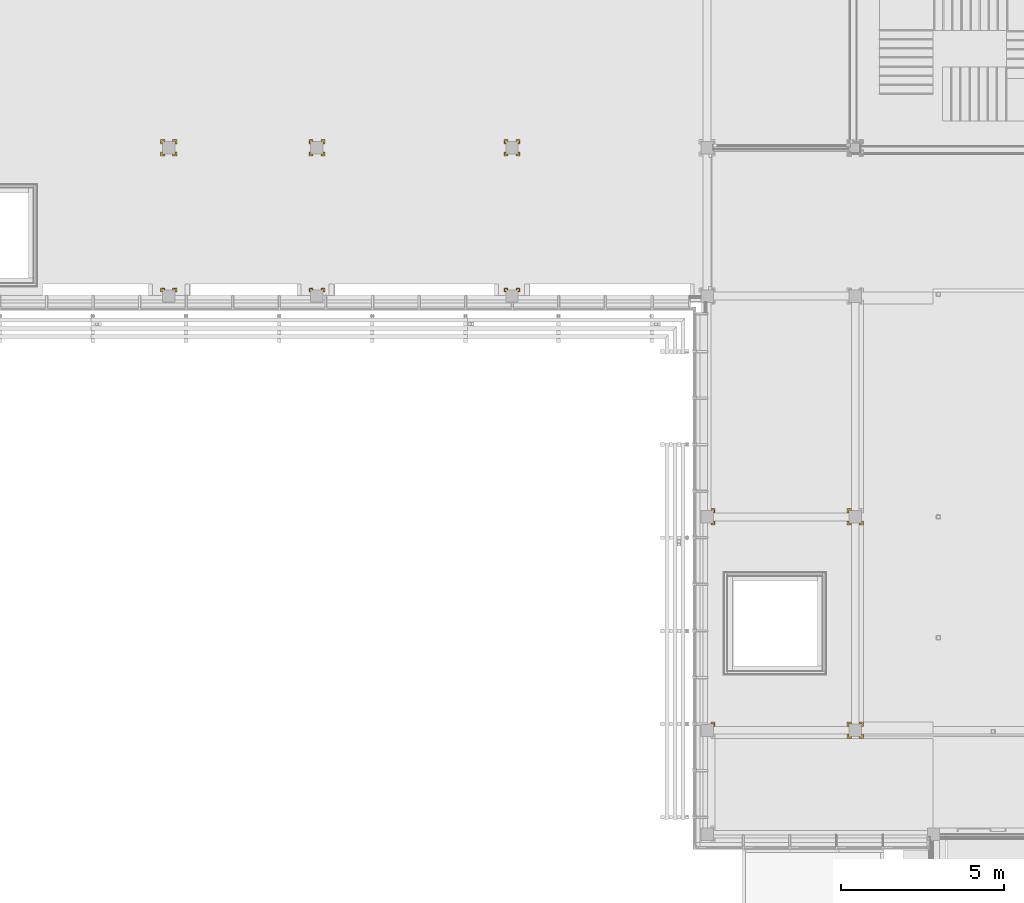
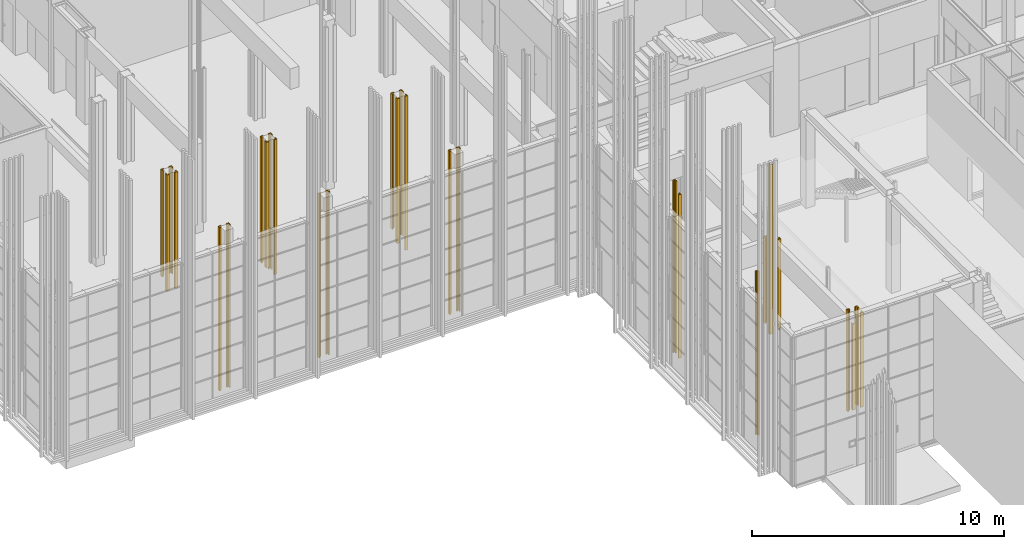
# One storey, part 255 of 260: 28 coverings.
"""IFC2X3 building model written with IfcOpenShell, lengths in millimetres."""

from ifc_helpers import new_model, entity, si_unit, converted_unit, derived_unit, money_unit, direction, frame, origin_with_axes, place, context, subcontext, project, spatial, faceted_brep, material, type_object, element, save


model = new_model("IFC2X3")

# Units and contexts
model_context = context("Model", 3, precision=0.01, world=origin_with_axes(), true_north=direction((0.0, 1.0)))
body_context = subcontext(model_context, "Body", "Model", "MODEL_VIEW")
ifc_project = project(units=[si_unit("LENGTHUNIT", "METRE", prefix="MILLI"), si_unit("AREAUNIT", "SQUARE_METRE"), si_unit("VOLUMEUNIT", "CUBIC_METRE"), converted_unit("PLANEANGLEUNIT", "DEGREE", entity("IfcPlaneAngleMeasure", 0.0174532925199), si_unit("PLANEANGLEUNIT", "RADIAN"), dimensions=[0, 0, 0, 0, 0, 0, 0]), money_unit("EUR"), converted_unit("TIMEUNIT", "Year", entity("IfcTimeMeasure", 31556926.0), si_unit("TIMEUNIT", "SECOND"), dimensions=[0, 0, 1, 0, 0, 0, 0]), si_unit("MASSUNIT", "GRAM", prefix="KILO"), si_unit("THERMODYNAMICTEMPERATUREUNIT", "DEGREE_CELSIUS"), si_unit("LUMINOUSINTENSITYUNIT", "LUMEN"), si_unit("ENERGYUNIT", "JOULE", prefix="MEGA"), derived_unit("THERMALCONDUCTANCEUNIT", [(si_unit("POWERUNIT", "WATT"), 1), (si_unit("LENGTHUNIT", "METRE"), -1), (si_unit("THERMODYNAMICTEMPERATUREUNIT", "KELVIN"), -1)]), derived_unit("SPECIFICHEATCAPACITYUNIT", [(si_unit("ENERGYUNIT", "JOULE"), 1), (si_unit("MASSUNIT", "GRAM", prefix="KILO"), -1), (si_unit("THERMODYNAMICTEMPERATUREUNIT", "KELVIN"), -1)]), derived_unit("MASSDENSITYUNIT", [(si_unit("MASSUNIT", "GRAM", prefix="KILO"), 1), (si_unit("VOLUMEUNIT", "CUBIC_METRE"), -1)])], contexts=[model_context])

# Site, building, storey
site_placement = place(None, origin_with_axes())
site = spatial("IfcSite", under=ifc_project, at=site_placement, Name="Kolde pst 67a", CompositionType="ELEMENT")
building_placement = place(site_placement, origin_with_axes())
building = spatial("IfcBuilding", under=site, at=building_placement, Name="Riigigümnaasium", CompositionType="ELEMENT")
storey_placement = place(building_placement, origin_with_axes())
storey = spatial("IfcBuildingStorey", under=building, at=storey_placement, Name="1. korrus", CompositionType="ELEMENT", Elevation=0.0)

# Coverings
ifc_material = material(Name="_KANDETARIND - liimpuit vastavalt EK osale")
covering_type = type_object("IfcCoveringType", Name="Aatriumi posti kõrvad 1 130 x 130", PredefinedType="NOTDEFINED")
covering_1_placement = place(storey_placement, frame((36249.99923, 28779.9996997, 1840.0), z_axis=(0.0, 0.0, 1.0), x_axis=(1.0, 0.0, 0.0)))
element("IfcCovering", 1, at=covering_1_placement, inside=storey, type_object=covering_type, material=ifc_material, Name="Posti katteelement", PredefinedType="NOTDEFINED", context=body_context, shape_type="Brep", body=[
    faceted_brep([(-250.0, -120.000002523, 6080.0), (-190.000000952, -120.000002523, 6080.0), (-190.000000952, -120.000002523, 0.0), (-250.0, -120.000002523, 0.0), (-209.999998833, -149.995099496, 6080.0), (-189.999999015, -149.995099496, 6080.0), (-250.0, -250.00000341, 6080.0), (-119.999999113, -250.00000341, 6080.0), (-119.999999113, -189.995101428, 6080.0), (-149.99999902, -189.995099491, 6080.0), (-149.99999902, -209.995099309, 6080.0), (-209.999998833, -209.995099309, 6080.0), (-189.999999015, -149.995099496, 0.0), (-250.0, -250.00000341, 0.0), (-209.999998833, -149.995099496, 0.0), (-209.999998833, -209.995099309, 0.0), (-149.99999902, -209.995099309, 0.0), (-149.99999902, -189.995099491, 0.0), (-119.999999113, -189.995101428, 0.0), (-119.999999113, -250.00000341, 0.0)], [[[0, 1, 2, 3]], [[4, 5, 1, 0, 6, 7, 8, 9, 10, 11]], [[1, 5, 12, 2]], [[13, 3, 2, 12, 14, 15, 16, 17, 18, 19]], [[6, 0, 3, 13]], [[5, 4, 14, 12]], [[7, 6, 13, 19]], [[8, 7, 19, 18]], [[9, 8, 18, 17]], [[10, 9, 17, 16]], [[11, 10, 16, 15]], [[4, 11, 15, 14]]]),
])
covering_2_placement = place(storey_placement, frame((42239.99923, 28779.9996997, 920.0), z_axis=(0.0, 0.0, 1.0), x_axis=(1.0, 0.0, 0.0)))
element("IfcCovering", 2, at=covering_2_placement, inside=storey, type_object=covering_type, material=ifc_material, Name="Posti katteelement", PredefinedType="NOTDEFINED", context=body_context, shape_type="Brep", body=[
    faceted_brep([(-250.0, -120.000002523, 7000.0), (-190.000000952, -120.000002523, 7000.0), (-190.000000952, -120.000002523, 0.0), (-250.0, -120.000002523, 0.0), (-209.999998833, -149.995099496, 7000.0), (-189.999999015, -149.995099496, 7000.0), (-250.0, -250.00000341, 7000.0), (-119.999999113, -250.00000341, 7000.0), (-119.999999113, -189.995101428, 7000.0), (-149.99999902, -189.995099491, 7000.0), (-149.99999902, -209.995099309, 7000.0), (-209.999998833, -209.995099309, 7000.0), (-189.999999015, -149.995099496, 0.0), (-250.0, -250.00000341, 0.0), (-209.999998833, -149.995099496, 0.0), (-209.999998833, -209.995099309, 0.0), (-149.99999902, -209.995099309, 0.0), (-149.99999902, -189.995099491, 0.0), (-119.999999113, -189.995101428, 0.0), (-119.999999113, -250.00000341, 0.0)], [[[0, 1, 2, 3]], [[4, 5, 1, 0, 6, 7, 8, 9, 10, 11]], [[1, 5, 12, 2]], [[13, 3, 2, 12, 14, 15, 16, 17, 18, 19]], [[6, 0, 3, 13]], [[5, 4, 14, 12]], [[7, 6, 13, 19]], [[8, 7, 19, 18]], [[9, 8, 18, 17]], [[10, 9, 17, 16]], [[11, 10, 16, 15]], [[4, 11, 15, 14]]]),
])
for number, where, z_axis, x_axis in (
    (3, (36249.99923, 24230.2703956, 0.0), (0.0, 0.0, 1.0), (1.0, 0.0, 0.0)),
    (4, (42239.99923, 24230.2703956, 0.0), (0.0, 0.0, 1.0), (1.0, 0.0, 0.0)),
    (5, (31700.0027795, 24230.2703956, 0.0), (0.0, 0.0, 1.0), (1.0, 0.0, 0.0)),
):
    element("IfcCovering", number, at=place(storey_placement, frame(where, z_axis=z_axis, x_axis=x_axis)), inside=storey, type_object=covering_type, material=ifc_material, Name="Posti katteelement", PredefinedType="NOTDEFINED", context=body_context, shape_type="Brep", body=[
        faceted_brep([(190.000000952, 120.000002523, 7920.0), (190.000000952, 120.000002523, 0.0), (250.0, 120.000002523, 0.0), (250.0, 120.000002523, 7920.0), (189.999999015, 149.995099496, 7920.0), (189.999999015, 149.995099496, 0.0), (209.999998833, 149.995099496, 0.0), (209.999998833, 209.995099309, 0.0), (149.99999902, 209.995099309, 0.0), (149.99999902, 189.995099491, 0.0), (119.999999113, 189.995101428, 0.0), (119.999999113, 250.00000341, 0.0), (250.0, 250.00000341, 0.0), (250.0, 250.00000341, 7920.0), (119.999999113, 250.00000341, 7920.0), (119.999999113, 189.995101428, 7920.0), (149.99999902, 189.995099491, 7920.0), (149.99999902, 209.995099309, 7920.0), (209.999998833, 209.995099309, 7920.0), (209.999998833, 149.995099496, 7920.0)], [[[0, 1, 2, 3]], [[4, 5, 1, 0]], [[2, 1, 5, 6, 7, 8, 9, 10, 11, 12]], [[3, 2, 12, 13]], [[4, 0, 3, 13, 14, 15, 16, 17, 18, 19]], [[19, 6, 5, 4]], [[18, 7, 6, 19]], [[17, 8, 7, 18]], [[16, 9, 8, 17]], [[15, 10, 9, 16]], [[14, 11, 10, 15]], [[13, 12, 11, 14]]]),
    ])
covering_3_placement = place(storey_placement, frame((31700.0027795, 28779.9996997, 2300.0), z_axis=(0.0, 0.0, 1.0), x_axis=(1.0, 0.0, 0.0)))
element("IfcCovering", 6, at=covering_3_placement, inside=storey, type_object=covering_type, material=ifc_material, Name="Posti katteelement", PredefinedType="NOTDEFINED", context=body_context, shape_type="Brep", body=[
    faceted_brep([(-250.0, -120.000002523, 5620.0), (-190.000000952, -120.000002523, 5620.0), (-190.000000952, -120.000002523, 0.0), (-250.0, -120.000002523, 0.0), (-209.999998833, -149.995099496, 5620.0), (-189.999999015, -149.995099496, 5620.0), (-250.0, -250.00000341, 5620.0), (-119.999999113, -250.00000341, 5620.0), (-119.999999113, -189.995101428, 5620.0), (-149.99999902, -189.995099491, 5620.0), (-149.99999902, -209.995099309, 5620.0), (-209.999998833, -209.995099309, 5620.0), (-189.999999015, -149.995099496, 0.0), (-250.0, -250.00000341, 0.0), (-209.999998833, -149.995099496, 0.0), (-209.999998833, -209.995099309, 0.0), (-149.99999902, -209.995099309, 0.0), (-149.99999902, -189.995099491, 0.0), (-119.999999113, -189.995101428, 0.0), (-119.999999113, -250.00000341, 0.0)], [[[0, 1, 2, 3]], [[4, 5, 1, 0, 6, 7, 8, 9, 10, 11]], [[1, 5, 12, 2]], [[13, 3, 2, 12, 14, 15, 16, 17, 18, 19]], [[6, 0, 3, 13]], [[5, 4, 14, 12]], [[7, 6, 13, 19]], [[8, 7, 19, 18]], [[9, 8, 18, 17]], [[10, 9, 17, 16]], [[11, 10, 16, 15]], [[4, 11, 15, 14]]]),
])
covering_4_placement = place(storey_placement, frame((48229.985469, 17449.9999742, 0.0), z_axis=(0.0, 0.0, 1.0), x_axis=(1.0, 0.0, 0.0)))
element("IfcCovering", 7, at=covering_4_placement, inside=storey, type_object=covering_type, material=ifc_material, Name="Posti katteelement", PredefinedType="NOTDEFINED", context=body_context, shape_type="Brep", body=[
    faceted_brep([(120.000002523, -250.0, 7920.0), (120.000002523, -190.000000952, 7920.0), (120.000002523, -190.000000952, 0.0), (120.000002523, -250.0, 0.0), (149.995099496, -209.999998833, 7920.0), (149.995099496, -189.999999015, 7920.0), (250.00000341, -250.0, 7920.0), (250.00000341, -119.999999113, 7920.0), (189.995101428, -119.999999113, 7920.0), (189.995099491, -149.99999902, 7920.0), (209.995099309, -149.99999902, 7920.0), (209.995099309, -209.999998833, 7920.0), (149.995099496, -189.999999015, 0.0), (250.00000341, -250.0, 0.0), (149.995099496, -209.999998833, 0.0), (209.995099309, -209.999998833, 0.0), (209.995099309, -149.99999902, 0.0), (189.995099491, -149.99999902, 0.0), (189.995101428, -119.999999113, 0.0), (250.00000341, -119.999999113, 0.0)], [[[0, 1, 2, 3]], [[4, 5, 1, 0, 6, 7, 8, 9, 10, 11]], [[1, 5, 12, 2]], [[13, 3, 2, 12, 14, 15, 16, 17, 18, 19]], [[6, 0, 3, 13]], [[5, 4, 14, 12]], [[7, 6, 13, 19]], [[8, 7, 19, 18]], [[9, 8, 18, 17]], [[10, 9, 17, 16]], [[11, 10, 16, 15]], [[4, 11, 15, 14]]]),
])
covering_5_placement = place(storey_placement, frame((52779.9941032, 17449.9999742, 0.0), z_axis=(0.0, 0.0, 1.0), x_axis=(1.0, 0.0, 0.0)))
element("IfcCovering", 8, at=covering_5_placement, inside=storey, type_object=covering_type, material=ifc_material, Name="Posti katteelement", PredefinedType="NOTDEFINED", context=body_context, shape_type="Brep", body=[
    faceted_brep([(-120.000002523, 250.0, 0.0), (-120.000002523, 250.0, 4170.0), (-120.000002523, 190.000000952, 4170.0), (-120.000002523, 190.000000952, 0.0), (-250.00000341, 250.0, 0.0), (-250.00000341, 250.0, 4170.0), (-209.995099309, 209.999998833, 4170.0), (-149.995099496, 209.999998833, 4170.0), (-149.995099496, 189.999999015, 4170.0), (-250.00000341, 119.999999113, 4170.0), (-189.995101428, 119.999999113, 4170.0), (-189.995099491, 149.99999902, 4170.0), (-209.995099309, 149.99999902, 4170.0), (-149.995099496, 189.999999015, 0.0), (-250.00000341, 119.999999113, 0.0), (-149.995099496, 209.999998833, 0.0), (-209.995099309, 209.999998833, 0.0), (-209.995099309, 149.99999902, 0.0), (-189.995099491, 149.99999902, 0.0), (-189.995101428, 119.999999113, 0.0)], [[[0, 1, 2, 3]], [[4, 5, 1, 0]], [[6, 7, 8, 2, 1, 5, 9, 10, 11, 12]], [[3, 2, 8, 13]], [[14, 4, 0, 3, 13, 15, 16, 17, 18, 19]], [[14, 9, 5, 4]], [[15, 7, 6, 16]], [[13, 8, 7, 15]], [[19, 10, 9, 14]], [[18, 11, 10, 19]], [[17, 12, 11, 18]], [[16, 6, 12, 17]]]),
])
covering_6_placement = place(storey_placement, frame((52779.9941032, 10899.9619407, 0.0), z_axis=(0.0, 0.0, 1.0), x_axis=(-4.31861827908e-08, 1.0, 0.0)))
element("IfcCovering", 9, at=covering_6_placement, inside=storey, type_object=covering_type, material=ifc_material, Name="Posti katteelement", PredefinedType="NOTDEFINED", context=body_context, shape_type="Brep", body=[
    faceted_brep([(-120.000002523, 250.0, 4170.0), (-120.000002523, 190.000000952, 4170.0), (-120.000002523, 190.000000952, 0.0), (-120.000002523, 250.0, 0.0), (-149.995099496, 209.999998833, 4170.0), (-149.995099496, 189.999999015, 4170.0), (-250.00000341, 250.0, 4170.0), (-250.00000341, 119.999999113, 4170.0), (-189.995101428, 119.999999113, 4170.0), (-189.995099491, 149.99999902, 4170.0), (-209.995099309, 149.99999902, 4170.0), (-209.995099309, 209.999998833, 4170.0), (-149.995099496, 189.999999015, 0.0), (-250.00000341, 250.0, 0.0), (-149.995099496, 209.999998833, 0.0), (-209.995099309, 209.999998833, 0.0), (-209.995099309, 149.99999902, 0.0), (-189.995099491, 149.99999902, 0.0), (-189.995101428, 119.999999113, 0.0), (-250.00000341, 119.999999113, 0.0)], [[[0, 1, 2, 3]], [[4, 5, 1, 0, 6, 7, 8, 9, 10, 11]], [[1, 5, 12, 2]], [[13, 3, 2, 12, 14, 15, 16, 17, 18, 19]], [[6, 0, 3, 13]], [[5, 4, 14, 12]], [[7, 6, 13, 19]], [[8, 7, 19, 18]], [[9, 8, 18, 17]], [[10, 9, 17, 16]], [[11, 10, 16, 15]], [[4, 11, 15, 14]]]),
])
for number, where, z_axis, x_axis in (
    (10, (31700.0027795, 28779.9996997, 2760.0), (0.0, 0.0, 1.0), (0.0, -1.0, 0.0)),
    (11, (31700.0027795, 28779.9996997, 2760.0), (0.0, 0.0, 1.0), (-1.0, 0.0, 0.0)),
):
    element("IfcCovering", number, at=place(storey_placement, frame(where, z_axis=z_axis, x_axis=x_axis)), inside=storey, type_object=covering_type, material=ifc_material, Name="Posti katteelement", PredefinedType="NOTDEFINED", context=body_context, shape_type="Brep", body=[
        faceted_brep([(-190.000000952, -120.000002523, 5160.0), (-190.000000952, -120.000002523, 0.0), (-250.0, -120.000002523, 0.0), (-250.0, -120.000002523, 5160.0), (-189.999999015, -149.995099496, 5160.0), (-189.999999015, -149.995099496, 0.0), (-209.999998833, -149.995099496, 0.0), (-209.999998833, -209.995099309, 0.0), (-149.99999902, -209.995099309, 0.0), (-149.99999902, -189.995099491, 0.0), (-119.999999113, -189.995101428, 0.0), (-119.999999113, -250.00000341, 0.0), (-250.0, -250.00000341, 0.0), (-250.0, -250.00000341, 5160.0), (-119.999999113, -250.00000341, 5160.0), (-119.999999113, -189.995101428, 5160.0), (-149.99999902, -189.995099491, 5160.0), (-149.99999902, -209.995099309, 5160.0), (-209.999998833, -209.995099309, 5160.0), (-209.999998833, -149.995099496, 5160.0)], [[[0, 1, 2, 3]], [[4, 5, 1, 0]], [[2, 1, 5, 6, 7, 8, 9, 10, 11, 12]], [[3, 2, 12, 13]], [[4, 0, 3, 13, 14, 15, 16, 17, 18, 19]], [[19, 6, 5, 4]], [[18, 7, 6, 19]], [[17, 8, 7, 18]], [[16, 9, 8, 17]], [[15, 10, 9, 16]], [[14, 11, 10, 15]], [[13, 12, 11, 14]]]),
    ])
covering_7_placement = place(storey_placement, frame((31700.0027795, 28779.9996997, 2300.0), z_axis=(0.0, 0.0, 1.0), x_axis=(0.0, 1.0, 0.0)))
element("IfcCovering", 12, at=covering_7_placement, inside=storey, type_object=covering_type, material=ifc_material, Name="Posti katteelement", PredefinedType="NOTDEFINED", context=body_context, shape_type="Brep", body=[
    faceted_brep([(-190.000000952, -120.000002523, 5620.0), (-190.000000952, -120.000002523, 0.0), (-250.0, -120.000002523, 0.0), (-250.0, -120.000002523, 5620.0), (-189.999999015, -149.995099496, 5620.0), (-189.999999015, -149.995099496, 0.0), (-209.999998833, -149.995099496, 0.0), (-209.999998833, -209.995099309, 0.0), (-149.99999902, -209.995099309, 0.0), (-149.99999902, -189.995099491, 0.0), (-119.999999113, -189.995101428, 0.0), (-119.999999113, -250.00000341, 0.0), (-250.0, -250.00000341, 0.0), (-250.0, -250.00000341, 5620.0), (-119.999999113, -250.00000341, 5620.0), (-119.999999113, -189.995101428, 5620.0), (-149.99999902, -189.995099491, 5620.0), (-149.99999902, -209.995099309, 5620.0), (-209.999998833, -209.995099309, 5620.0), (-209.999998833, -149.995099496, 5620.0)], [[[0, 1, 2, 3]], [[4, 5, 1, 0]], [[2, 1, 5, 6, 7, 8, 9, 10, 11, 12]], [[3, 2, 12, 13]], [[4, 0, 3, 13, 14, 15, 16, 17, 18, 19]], [[19, 6, 5, 4]], [[18, 7, 6, 19]], [[17, 8, 7, 18]], [[16, 9, 8, 17]], [[15, 10, 9, 16]], [[14, 11, 10, 15]], [[13, 12, 11, 14]]]),
])
covering_8_placement = place(storey_placement, frame((36249.99923, 28779.9996997, 1840.0), z_axis=(0.0, 0.0, 1.0), x_axis=(0.0, -1.0, 0.0)))
element("IfcCovering", 13, at=covering_8_placement, inside=storey, type_object=covering_type, material=ifc_material, Name="Posti katteelement", PredefinedType="NOTDEFINED", context=body_context, shape_type="Brep", body=[
    faceted_brep([(-190.000000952, -120.000002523, 6080.0), (-190.000000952, -120.000002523, 0.0), (-250.0, -120.000002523, 0.0), (-250.0, -120.000002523, 6080.0), (-189.999999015, -149.995099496, 6080.0), (-189.999999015, -149.995099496, 0.0), (-209.999998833, -149.995099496, 0.0), (-209.999998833, -209.995099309, 0.0), (-149.99999902, -209.995099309, 0.0), (-149.99999902, -189.995099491, 0.0), (-119.999999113, -189.995101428, 0.0), (-119.999999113, -250.00000341, 0.0), (-250.0, -250.00000341, 0.0), (-250.0, -250.00000341, 6080.0), (-119.999999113, -250.00000341, 6080.0), (-119.999999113, -189.995101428, 6080.0), (-149.99999902, -189.995099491, 6080.0), (-149.99999902, -209.995099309, 6080.0), (-209.999998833, -209.995099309, 6080.0), (-209.999998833, -149.995099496, 6080.0)], [[[0, 1, 2, 3]], [[4, 5, 1, 0]], [[2, 1, 5, 6, 7, 8, 9, 10, 11, 12]], [[3, 2, 12, 13]], [[4, 0, 3, 13, 14, 15, 16, 17, 18, 19]], [[19, 6, 5, 4]], [[18, 7, 6, 19]], [[17, 8, 7, 18]], [[16, 9, 8, 17]], [[15, 10, 9, 16]], [[14, 11, 10, 15]], [[13, 12, 11, 14]]]),
])
for number, where, z_axis, x_axis in (
    (14, (36249.99923, 28779.9996997, 1380.0), (0.0, 0.0, 1.0), (-1.0, 0.0, 0.0)),
    (15, (36249.99923, 28779.9996997, 1380.0), (0.0, 0.0, 1.0), (0.0, 1.0, 0.0)),
    (16, (42239.99923, 28779.9996997, 1380.0), (0.0, 0.0, 1.0), (0.0, -1.0, 0.0)),
):
    element("IfcCovering", number, at=place(storey_placement, frame(where, z_axis=z_axis, x_axis=x_axis)), inside=storey, type_object=covering_type, material=ifc_material, Name="Posti katteelement", PredefinedType="NOTDEFINED", context=body_context, shape_type="Brep", body=[
        faceted_brep([(-190.000000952, -120.000002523, 6540.0), (-190.000000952, -120.000002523, 0.0), (-250.0, -120.000002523, 0.0), (-250.0, -120.000002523, 6540.0), (-189.999999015, -149.995099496, 6540.0), (-189.999999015, -149.995099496, 0.0), (-209.999998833, -149.995099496, 0.0), (-209.999998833, -209.995099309, 0.0), (-149.99999902, -209.995099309, 0.0), (-149.99999902, -189.995099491, 0.0), (-119.999999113, -189.995101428, 0.0), (-119.999999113, -250.00000341, 0.0), (-250.0, -250.00000341, 0.0), (-250.0, -250.00000341, 6540.0), (-119.999999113, -250.00000341, 6540.0), (-119.999999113, -189.995101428, 6540.0), (-149.99999902, -189.995099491, 6540.0), (-149.99999902, -209.995099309, 6540.0), (-209.999998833, -209.995099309, 6540.0), (-209.999998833, -149.995099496, 6540.0)], [[[0, 1, 2, 3]], [[4, 5, 1, 0]], [[2, 1, 5, 6, 7, 8, 9, 10, 11, 12]], [[3, 2, 12, 13]], [[4, 0, 3, 13, 14, 15, 16, 17, 18, 19]], [[19, 6, 5, 4]], [[18, 7, 6, 19]], [[17, 8, 7, 18]], [[16, 9, 8, 17]], [[15, 10, 9, 16]], [[14, 11, 10, 15]], [[13, 12, 11, 14]]]),
    ])
covering_9_placement = place(storey_placement, frame((42239.99923, 28779.9996997, 920.0), z_axis=(0.0, 0.0, 1.0), x_axis=(-0.999999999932, -1.16656692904e-05, 0.0)))
element("IfcCovering", 17, at=covering_9_placement, inside=storey, type_object=covering_type, material=ifc_material, Name="Posti katteelement", PredefinedType="NOTDEFINED", context=body_context, shape_type="Brep", body=[
    faceted_brep([(-190.000000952, -120.000002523, 7000.0), (-190.000000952, -120.000002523, 0.0), (-250.0, -120.000002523, 0.0), (-250.0, -120.000002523, 7000.0), (-189.999999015, -149.995099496, 7000.0), (-189.999999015, -149.995099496, 0.0), (-209.999998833, -149.995099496, 0.0), (-209.999998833, -209.995099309, 0.0), (-149.99999902, -209.995099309, 0.0), (-149.99999902, -189.995099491, 0.0), (-119.999999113, -189.995101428, 0.0), (-119.999999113, -250.00000341, 0.0), (-250.0, -250.00000341, 0.0), (-250.0, -250.00000341, 7000.0), (-119.999999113, -250.00000341, 7000.0), (-119.999999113, -189.995101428, 7000.0), (-149.99999902, -189.995099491, 7000.0), (-149.99999902, -209.995099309, 7000.0), (-209.999998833, -209.995099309, 7000.0), (-209.999998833, -149.995099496, 7000.0)], [[[0, 1, 2, 3]], [[4, 5, 1, 0]], [[2, 1, 5, 6, 7, 8, 9, 10, 11, 12]], [[3, 2, 12, 13]], [[4, 0, 3, 13, 14, 15, 16, 17, 18, 19]], [[19, 6, 5, 4]], [[18, 7, 6, 19]], [[17, 8, 7, 18]], [[16, 9, 8, 17]], [[15, 10, 9, 16]], [[14, 11, 10, 15]], [[13, 12, 11, 14]]]),
])
covering_10_placement = place(storey_placement, frame((42239.99923, 28779.9996997, 460.0), z_axis=(0.0, 0.0, 1.0), x_axis=(-1.16656691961e-05, 0.999999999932, 0.0)))
element("IfcCovering", 18, at=covering_10_placement, inside=storey, type_object=covering_type, material=ifc_material, Name="Posti katteelement", PredefinedType="NOTDEFINED", context=body_context, shape_type="Brep", body=[
    faceted_brep([(-190.000000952, -120.000002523, 7460.0), (-190.000000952, -120.000002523, 0.0), (-250.0, -120.000002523, 0.0), (-250.0, -120.000002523, 7460.0), (-189.999999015, -149.995099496, 7460.0), (-189.999999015, -149.995099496, 0.0), (-209.999998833, -149.995099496, 0.0), (-209.999998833, -209.995099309, 0.0), (-149.99999902, -209.995099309, 0.0), (-149.99999902, -189.995099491, 0.0), (-119.999999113, -189.995101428, 0.0), (-119.999999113, -250.00000341, 0.0), (-250.0, -250.00000341, 0.0), (-250.0, -250.00000341, 7460.0), (-119.999999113, -250.00000341, 7460.0), (-119.999999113, -189.995101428, 7460.0), (-149.99999902, -189.995099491, 7460.0), (-149.99999902, -209.995099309, 7460.0), (-209.999998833, -209.995099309, 7460.0), (-209.999998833, -149.995099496, 7460.0)], [[[0, 1, 2, 3]], [[4, 5, 1, 0]], [[2, 1, 5, 6, 7, 8, 9, 10, 11, 12]], [[3, 2, 12, 13]], [[4, 0, 3, 13, 14, 15, 16, 17, 18, 19]], [[19, 6, 5, 4]], [[18, 7, 6, 19]], [[17, 8, 7, 18]], [[16, 9, 8, 17]], [[15, 10, 9, 16]], [[14, 11, 10, 15]], [[13, 12, 11, 14]]]),
])
for number, where, z_axis, x_axis in (
    (19, (31700.0027795, 24230.2703956, 0.0), (0.0, 0.0, 1.0), (0.0, 1.0, 0.0)),
    (20, (36249.99923, 24230.2703956, 0.0), (0.0, 0.0, 1.0), (-1.16656692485e-05, 0.999999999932, 0.0)),
    (21, (42239.99923, 24230.2703956, 0.0), (0.0, 0.0, 1.0), (0.0, 1.0, 0.0)),
):
    element("IfcCovering", number, at=place(storey_placement, frame(where, z_axis=z_axis, x_axis=x_axis)), inside=storey, type_object=covering_type, material=ifc_material, Name="Posti katteelement", PredefinedType="NOTDEFINED", context=body_context, shape_type="Brep", body=[
        faceted_brep([(190.000000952, 120.000002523, 7920.0), (190.000000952, 120.000002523, 0.0), (250.0, 120.000002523, 0.0), (250.0, 120.000002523, 7920.0), (189.999999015, 149.995099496, 7920.0), (189.999999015, 149.995099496, 0.0), (209.999998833, 149.995099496, 0.0), (209.999998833, 209.995099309, 0.0), (149.99999902, 209.995099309, 0.0), (149.99999902, 189.995099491, 0.0), (119.999999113, 189.995101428, 0.0), (119.999999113, 250.00000341, 0.0), (250.0, 250.00000341, 0.0), (250.0, 250.00000341, 7920.0), (119.999999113, 250.00000341, 7920.0), (119.999999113, 189.995101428, 7920.0), (149.99999902, 189.995099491, 7920.0), (149.99999902, 209.995099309, 7920.0), (209.999998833, 209.995099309, 7920.0), (209.999998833, 149.995099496, 7920.0)], [[[0, 1, 2, 3]], [[4, 5, 1, 0]], [[2, 1, 5, 6, 7, 8, 9, 10, 11, 12]], [[3, 2, 12, 13]], [[4, 0, 3, 13, 14, 15, 16, 17, 18, 19]], [[19, 6, 5, 4]], [[18, 7, 6, 19]], [[17, 8, 7, 18]], [[16, 9, 8, 17]], [[15, 10, 9, 16]], [[14, 11, 10, 15]], [[13, 12, 11, 14]]]),
    ])
covering_11_placement = place(storey_placement, frame((48229.985469, 17449.9999742, 0.0), z_axis=(0.0, 0.0, 1.0), x_axis=(-1.16656692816e-05, 0.999999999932, 0.0)))
element("IfcCovering", 22, at=covering_11_placement, inside=storey, type_object=covering_type, material=ifc_material, Name="Posti katteelement", PredefinedType="NOTDEFINED", context=body_context, shape_type="Brep", body=[
    faceted_brep([(120.000002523, -190.000000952, 8350.0), (120.000002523, -190.000000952, 0.0), (120.000002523, -250.0, 0.0), (120.000002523, -250.0, 8350.0), (149.995099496, -189.999999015, 8350.0), (149.995099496, -189.999999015, 0.0), (149.995099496, -209.999998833, 0.0), (209.995099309, -209.999998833, 0.0), (209.995099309, -149.99999902, 0.0), (189.995099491, -149.99999902, 0.0), (189.995101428, -119.999999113, 0.0), (250.00000341, -119.999999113, 0.0), (250.00000341, -250.0, 0.0), (250.00000341, -250.0, 8350.0), (250.00000341, -119.999999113, 8350.0), (189.995101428, -119.999999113, 8350.0), (189.995099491, -149.99999902, 8350.0), (209.995099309, -149.99999902, 8350.0), (209.995099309, -209.999998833, 8350.0), (149.995099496, -209.999998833, 8350.0)], [[[0, 1, 2, 3]], [[4, 5, 1, 0]], [[2, 1, 5, 6, 7, 8, 9, 10, 11, 12]], [[3, 2, 12, 13]], [[4, 0, 3, 13, 14, 15, 16, 17, 18, 19]], [[19, 6, 5, 4]], [[18, 7, 6, 19]], [[17, 8, 7, 18]], [[16, 9, 8, 17]], [[15, 10, 9, 16]], [[14, 11, 10, 15]], [[13, 12, 11, 14]]]),
])
covering_12_placement = place(storey_placement, frame((48229.9854991, 10899.9619736, 0.0), z_axis=(0.0, 0.0, 1.0), x_axis=(6.81972884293e-09, 1.0, 0.0)))
element("IfcCovering", 23, at=covering_12_placement, inside=storey, type_object=covering_type, material=ifc_material, Name="Posti katteelement", PredefinedType="NOTDEFINED", context=body_context, shape_type="Brep", body=[
    faceted_brep([(120.000002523, -190.000000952, 7920.0), (120.000002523, -190.000000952, 0.0), (120.000002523, -250.0, 0.0), (120.000002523, -250.0, 7920.0), (149.995099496, -189.999999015, 7920.0), (149.995099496, -189.999999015, 0.0), (149.995099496, -209.999998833, 0.0), (209.995099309, -209.999998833, 0.0), (209.995099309, -149.99999902, 0.0), (189.995099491, -149.99999902, 0.0), (189.995101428, -119.999999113, 0.0), (250.00000341, -119.999999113, 0.0), (250.00000341, -250.0, 0.0), (250.00000341, -250.0, 7920.0), (250.00000341, -119.999999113, 7920.0), (189.995101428, -119.999999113, 7920.0), (189.995099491, -149.99999902, 7920.0), (209.995099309, -149.99999902, 7920.0), (209.995099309, -209.999998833, 7920.0), (149.995099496, -209.999998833, 7920.0)], [[[0, 1, 2, 3]], [[4, 5, 1, 0]], [[2, 1, 5, 6, 7, 8, 9, 10, 11, 12]], [[3, 2, 12, 13]], [[4, 0, 3, 13, 14, 15, 16, 17, 18, 19]], [[19, 6, 5, 4]], [[18, 7, 6, 19]], [[17, 8, 7, 18]], [[16, 9, 8, 17]], [[15, 10, 9, 16]], [[14, 11, 10, 15]], [[13, 12, 11, 14]]]),
])
covering_13_placement = place(storey_placement, frame((52779.9941032, 10899.9619407, -300.0), z_axis=(0.0, 0.0, 1.0), x_axis=(1.0, -5.68256375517e-08, 0.0)))
element("IfcCovering", 24, at=covering_13_placement, inside=storey, type_object=covering_type, material=ifc_material, Name="Posti katteelement", PredefinedType="NOTDEFINED", context=body_context, shape_type="Brep", body=[
    faceted_brep([(-120.000002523, 190.000000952, 4900.0), (-120.000002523, 190.000000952, 0.0), (-120.000002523, 250.0, 0.0), (-120.000002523, 250.0, 4900.0), (-149.995099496, 189.999999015, 4900.0), (-149.995099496, 189.999999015, 0.0), (-149.995099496, 209.999998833, 0.0), (-209.995099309, 209.999998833, 0.0), (-209.995099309, 149.99999902, 0.0), (-189.995099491, 149.99999902, 0.0), (-189.995101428, 119.999999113, 0.0), (-250.00000341, 119.999999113, 0.0), (-250.00000341, 250.0, 0.0), (-250.00000341, 250.0, 4900.0), (-250.00000341, 119.999999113, 4900.0), (-189.995101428, 119.999999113, 4900.0), (-189.995099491, 149.99999902, 4900.0), (-209.995099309, 149.99999902, 4900.0), (-209.995099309, 209.999998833, 4900.0), (-149.995099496, 209.999998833, 4900.0)], [[[0, 1, 2, 3]], [[4, 5, 1, 0]], [[2, 1, 5, 6, 7, 8, 9, 10, 11, 12]], [[3, 2, 12, 13]], [[4, 0, 3, 13, 14, 15, 16, 17, 18, 19]], [[19, 6, 5, 4]], [[18, 7, 6, 19]], [[17, 8, 7, 18]], [[16, 9, 8, 17]], [[15, 10, 9, 16]], [[14, 11, 10, 15]], [[13, 12, 11, 14]]]),
])
covering_14_placement = place(storey_placement, frame((52779.9941032, 10899.9619407, -150.0), z_axis=(0.0, 0.0, 1.0), x_axis=(-5.68255739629e-08, -1.0, 0.0)))
element("IfcCovering", 25, at=covering_14_placement, inside=storey, type_object=covering_type, material=ifc_material, Name="Posti katteelement", PredefinedType="NOTDEFINED", context=body_context, shape_type="Brep", body=[
    faceted_brep([(-120.000002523, 190.000000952, 4750.0), (-120.000002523, 190.000000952, 0.0), (-120.000002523, 250.0, 0.0), (-120.000002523, 250.0, 4750.0), (-149.995099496, 189.999999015, 4750.0), (-149.995099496, 189.999999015, 0.0), (-149.995099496, 209.999998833, 0.0), (-209.995099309, 209.999998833, 0.0), (-209.995099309, 149.99999902, 0.0), (-189.995099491, 149.99999902, 0.0), (-189.995101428, 119.999999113, 0.0), (-250.00000341, 119.999999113, 0.0), (-250.00000341, 250.0, 0.0), (-250.00000341, 250.0, 4750.0), (-250.00000341, 119.999999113, 4750.0), (-189.995101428, 119.999999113, 4750.0), (-189.995099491, 149.99999902, 4750.0), (-209.995099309, 149.99999902, 4750.0), (-209.995099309, 209.999998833, 4750.0), (-149.995099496, 209.999998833, 4750.0)], [[[0, 1, 2, 3]], [[4, 5, 1, 0]], [[2, 1, 5, 6, 7, 8, 9, 10, 11, 12]], [[3, 2, 12, 13]], [[4, 0, 3, 13, 14, 15, 16, 17, 18, 19]], [[19, 6, 5, 4]], [[18, 7, 6, 19]], [[17, 8, 7, 18]], [[16, 9, 8, 17]], [[15, 10, 9, 16]], [[14, 11, 10, 15]], [[13, 12, 11, 14]]]),
])
covering_15_placement = place(storey_placement, frame((52779.9941032, 10899.9619407, 0.0), z_axis=(0.0, 0.0, 1.0), x_axis=(-1.0, 1.56837394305e-07, 0.0)))
element("IfcCovering", 26, at=covering_15_placement, inside=storey, type_object=covering_type, material=ifc_material, Name="Posti katteelement", PredefinedType="NOTDEFINED", context=body_context, shape_type="Brep", body=[
    faceted_brep([(-120.000002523, 190.000000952, 4600.0), (-120.000002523, 190.000000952, 0.0), (-120.000002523, 250.0, 0.0), (-120.000002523, 250.0, 4600.0), (-149.995099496, 189.999999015, 4600.0), (-149.995099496, 189.999999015, 0.0), (-149.995099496, 209.999998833, 0.0), (-209.995099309, 209.999998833, 0.0), (-209.995099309, 149.99999902, 0.0), (-189.995099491, 149.99999902, 0.0), (-189.995101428, 119.999999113, 0.0), (-250.00000341, 119.999999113, 0.0), (-250.00000341, 250.0, 0.0), (-250.00000341, 250.0, 4600.0), (-250.00000341, 119.999999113, 4600.0), (-189.995101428, 119.999999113, 4600.0), (-189.995099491, 149.99999902, 4600.0), (-209.995099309, 149.99999902, 4600.0), (-209.995099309, 209.999998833, 4600.0), (-149.995099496, 209.999998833, 4600.0)], [[[0, 1, 2, 3]], [[4, 5, 1, 0]], [[2, 1, 5, 6, 7, 8, 9, 10, 11, 12]], [[3, 2, 12, 13]], [[4, 0, 3, 13, 14, 15, 16, 17, 18, 19]], [[19, 6, 5, 4]], [[18, 7, 6, 19]], [[17, 8, 7, 18]], [[16, 9, 8, 17]], [[15, 10, 9, 16]], [[14, 11, 10, 15]], [[13, 12, 11, 14]]]),
])
covering_16_placement = place(storey_placement, frame((52779.9941032, 17449.9999742, -300.0), z_axis=(0.0, 0.0, 1.0), x_axis=(0.0, 1.0, 0.0)))
element("IfcCovering", 27, at=covering_16_placement, inside=storey, type_object=covering_type, material=ifc_material, Name="Posti katteelement", PredefinedType="NOTDEFINED", context=body_context, shape_type="Brep", body=[
    faceted_brep([(-120.000002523, 190.000000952, 8220.0), (-120.000002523, 190.000000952, 0.0), (-120.000002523, 250.0, 0.0), (-120.000002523, 250.0, 8220.0), (-149.995099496, 189.999999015, 8220.0), (-149.995099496, 189.999999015, 0.0), (-149.995099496, 209.999998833, 0.0), (-209.995099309, 209.999998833, 0.0), (-209.995099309, 149.99999902, 0.0), (-189.995099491, 149.99999902, 0.0), (-189.995101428, 119.999999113, 0.0), (-250.00000341, 119.999999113, 0.0), (-250.00000341, 250.0, 0.0), (-250.00000341, 250.0, 8220.0), (-250.00000341, 119.999999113, 8220.0), (-189.995101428, 119.999999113, 8220.0), (-189.995099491, 149.99999902, 8220.0), (-209.995099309, 149.99999902, 8220.0), (-209.995099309, 209.999998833, 8220.0), (-149.995099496, 209.999998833, 8220.0)], [[[0, 1, 2, 3]], [[4, 5, 1, 0]], [[2, 1, 5, 6, 7, 8, 9, 10, 11, 12]], [[3, 2, 12, 13]], [[4, 0, 3, 13, 14, 15, 16, 17, 18, 19]], [[19, 6, 5, 4]], [[18, 7, 6, 19]], [[17, 8, 7, 18]], [[16, 9, 8, 17]], [[15, 10, 9, 16]], [[14, 11, 10, 15]], [[13, 12, 11, 14]]]),
])
covering_17_placement = place(storey_placement, frame((52779.9941032, 17449.9999742, -300.0), z_axis=(0.0, 0.0, 1.0), x_axis=(-1.0, 0.0, 0.0)))
element("IfcCovering", 28, at=covering_17_placement, inside=storey, type_object=covering_type, material=ifc_material, Name="Posti katteelement", PredefinedType="NOTDEFINED", context=body_context, shape_type="Brep", body=[
    faceted_brep([(-250.00000341, 190.0, 150.0), (-250.00000341, 190.0, 0.0), (-250.00000341, 119.999999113, 0.0), (-250.00000341, 119.999999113, 4470.0), (-250.00000341, 250.0, 4470.0), (-250.00000341, 250.0, 150.0), (-209.995099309, 190.0, 150.0), (-209.995099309, 190.0, 0.0), (-209.995099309, 149.99999902, 0.0), (-189.995099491, 149.99999902, 0.0), (-189.995101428, 119.999999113, 0.0), (-189.995101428, 119.999999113, 4470.0), (-149.995099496, 209.999998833, 4470.0), (-149.995099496, 189.999999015, 4470.0), (-120.000002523, 190.000000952, 4470.0), (-120.000002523, 250.0, 4470.0), (-189.995099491, 149.99999902, 4470.0), (-209.995099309, 149.99999902, 4470.0), (-209.995099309, 209.999998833, 4470.0), (-120.000002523, 250.0, 150.0), (-120.000002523, 190.0, 150.0), (-149.995099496, 190.0, 150.0), (-149.995099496, 209.999998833, 150.0), (-209.995099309, 209.999998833, 150.0)], [[[0, 1, 2, 3, 4, 5]], [[1, 0, 6, 7]], [[1, 7, 8, 9, 10, 2]], [[11, 3, 2, 10]], [[12, 13, 14, 15, 4, 3, 11, 16, 17, 18]], [[19, 5, 4, 15]], [[0, 5, 19, 20, 21, 22, 23, 6]], [[6, 23, 18, 17, 8, 7]], [[17, 16, 9, 8]], [[16, 11, 10, 9]], [[22, 21, 13, 12]], [[21, 20, 14, 13]], [[20, 19, 15, 14]], [[23, 22, 12, 18]]]),
])

save(model, "model.ifc")
